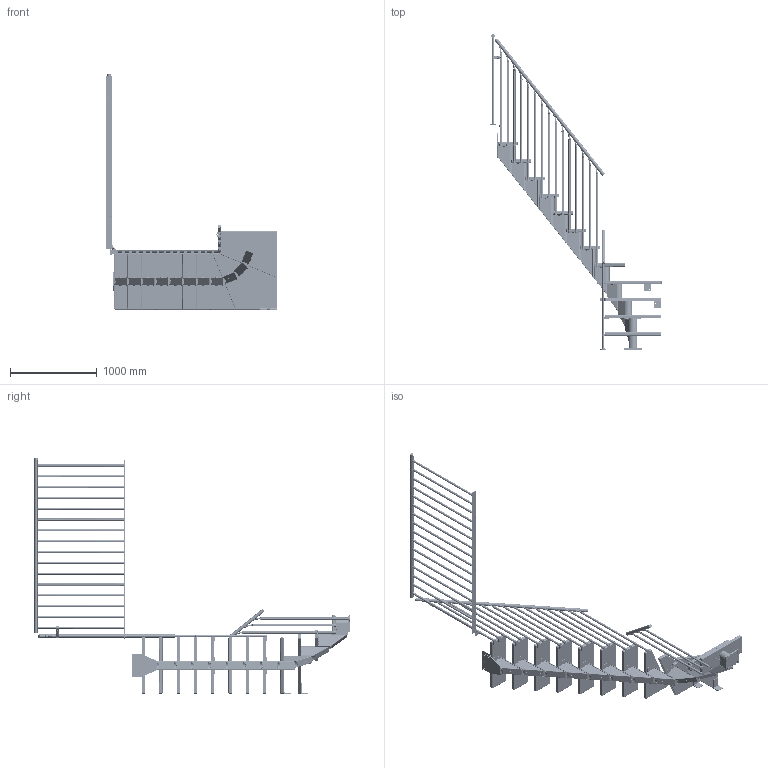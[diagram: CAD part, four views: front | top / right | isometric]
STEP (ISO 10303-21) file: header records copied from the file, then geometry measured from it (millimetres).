
FILE_DESCRIPTION (( 'STEP AP214' ), '1' );
FILE_NAME ('5499 - FRANKFURT ¼-sving CLASSIC III gelænder.STEP', '2021-09-03T09:56:40', ( '' ), ( '' ), 'SwSTEP 2.0', 'SolidWorks 2019', '' );
FILE_SCHEMA (( 'AUTOMOTIVE_DESIGN' ));
Length unit declared in the file: millimetre
Products named in the file (137): K1-1077150_K1-1077152; K1-34011; K3-06027; 5066882; K1-1077070_K1-1077072; K2-1077025_K2-1077027; K2-1077155_K2-1077157; K1-1077209; 1078905; K2-1077195_K2-1077197; K2-1077675-1_K1-1077677; M2-1078307; K2-1077425_K2-1077427; K1-1077170_K1-1077172; K3-05003_M8x6 ISO 4029 simpel; K1-34030; K1-08310-02; K2-1077170_K2-1077172; 1077480-01_13; K1-1077650_K1-1077652; K1-1077610_K1-1077612; K1-1077165_K1-1077167; HÅNDLISTE BUND^5066882; K3-06022_K3-06022; K1-1077295_K1-1077297<As Machined>; M2-1078309; 1077675-1_1077677; K1-01040; M2-1078905; K1-1077655_K1-1077657; K1-1077676; K3-03008_M8-ISO4034_Simpel; K3-02009_K3-02009; K3-02016_M5x12 DIN 912; K2-1077420_K2-1077422; K1-40560; K1-34031; K3-05004_K3-05004; K1-1077002; K1-1077675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
Assembly tree (333 placements, depth 5):
  5499 - FRANKFURT ¼-sving CLASSIC III gelænder
    5066882
      1077480-01_13
        K2-1077420_K2-1077422
          K1-34031
          K1-34030
          K1-1077002
        K2-1077425_K2-1077427
          K1-34031
          K1-34030
        K2-1077425_K2-1077427
          K1-34031
          K1-34030
        K2-1077425_K2-1077427
          K1-34031
          K1-34030
        K2-1077425_K2-1077427
          K1-34031
          K1-34030
        K2-1077425_K2-1077427
          K1-34031
          K1-34030
        K2-1077425_K2-1077427
          K1-34031
          K1-34030
        K2-1077425_K2-1077427
          K1-34031
          K1-34030
        K2-1077425_K2-1077427
          K1-34031
          K1-34030
        K2-1077425_K2-1077427
          K1-34031
          K1-34030
        K2-1077425_K2-1077427
          K1-34031
          K1-34030
        K2-1077430_K2-1077432
          K1-34021
          K1-34020___
          K1-1077411
        K2-1077440_K2-1077442
          K1-34010
          K1-34011
        K1-1077400_K1-1077402
        K1-1077070_K1-1077072
      M2-1078300
      M2-1078301  x7
      M2-1078306
      M2-1078307
      M2-1078308
      M2-1078309
      K2-1077025_K2-1077027
        K1-40560
        K1-40561
      K2-1077030_K2-1077032
        K1-40562_Default<As Machined>
        K1-40560
      K2-1077025_K2-1077027
        K1-40560
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Bounding box: 1977.16 x 3642.16 x 2720 mm (x, y, z)
Volume: 90583515.2 mm3; surface area: 15058554.3 mm2
Topology: 270 solids, 270 shells, 8306 faces, 19758 edges, 12046 vertices
Faces by surface type: cylinder 3179, plane 2600, torus 866, cone 796, bspline 715, sphere 150
Entity records: 74320 total; most frequent: CARTESIAN_POINT 23042, DIRECTION 10422, ORIENTED_EDGE 9190, EDGE_CURVE 4595, AXIS2_PLACEMENT_3D 4210, VERTEX_POINT 2853, EDGE_LOOP 2132, VECTOR 2002
